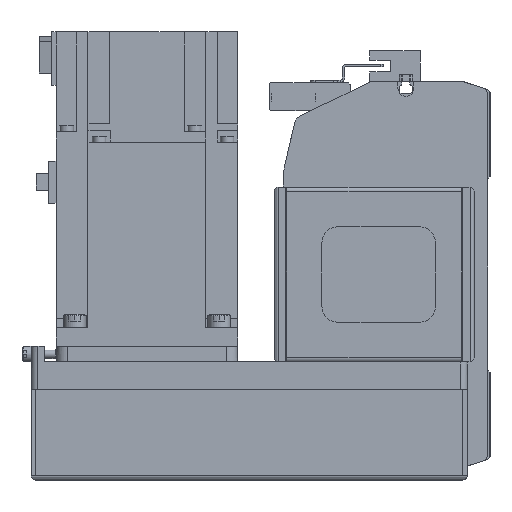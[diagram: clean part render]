
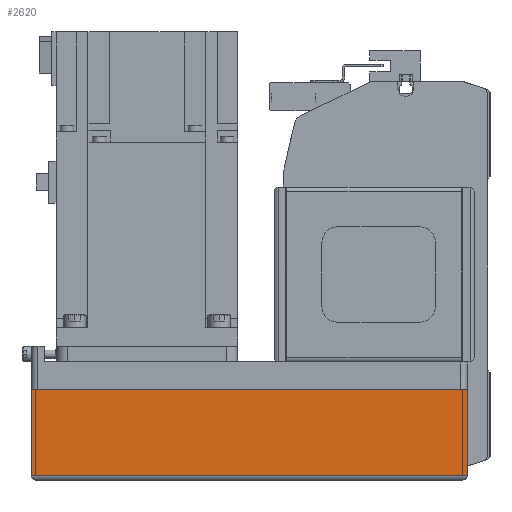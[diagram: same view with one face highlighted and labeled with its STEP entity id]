
A CAD part, left-side view. The second image highlights one B-rep face of the part: STEP entity #2620.
In plain terms, the highlighted planar face has unit normal (-1, 0, 0) as drawn and (0, -1, 0) by its records, which use the part's own axes.
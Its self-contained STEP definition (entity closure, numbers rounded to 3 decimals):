
#2620 = ADVANCED_FACE( '', ( #5610 ), #5611, .T. );
#5610 = FACE_OUTER_BOUND( '', #8918, .T. );
#5611 = PLANE( '', #8919 );
#8918 = EDGE_LOOP( '', ( #16380, #16381, #16382, #16383 ) );
#8919 = AXIS2_PLACEMENT_3D( '', #16384, #16385, #16386 );
#16380 = ORIENTED_EDGE( '', *, *, #21464, .F. );
#16381 = ORIENTED_EDGE( '', *, *, #21883, .F. );
#16382 = ORIENTED_EDGE( '', *, *, #20088, .T. );
#16383 = ORIENTED_EDGE( '', *, *, #20592, .T. );
#16384 = CARTESIAN_POINT( '', ( -192., -40., -12.1 ) );
#16385 = DIRECTION( '', ( 0., -1., 0. ) );
#16386 = DIRECTION( '', ( 0., 0., -1. ) );
#20088 = EDGE_CURVE( '', #23356, #24479, #24481, .T. );
#20592 = EDGE_CURVE( '', #24479, #25264, #25266, .T. );
#21464 = EDGE_CURVE( '', #26511, #25264, #26512, .T. );
#21883 = EDGE_CURVE( '', #23356, #26511, #27039, .T. );
#23356 = VERTEX_POINT( '', #29128 );
#24479 = VERTEX_POINT( '', #30752 );
#24481 = LINE( '', #30755, #30756 );
#25264 = VERTEX_POINT( '', #31970 );
#25266 = LINE( '', #31972, #31973 );
#26511 = VERTEX_POINT( '', #33760 );
#26512 = LINE( '', #33761, #33762 );
#27039 = LINE( '', #34565, #34566 );
#29128 = CARTESIAN_POINT( '', ( -192., -40., -12.1 ) );
#30752 = CARTESIAN_POINT( '', ( -192., -40., -50. ) );
#30755 = CARTESIAN_POINT( '', ( -192., -40., -12.1 ) );
#30756 = VECTOR( '', #36778, 1000. );
#31970 = CARTESIAN_POINT( '', ( 0., -40., -50. ) );
#31972 = CARTESIAN_POINT( '', ( -192., -40., -50. ) );
#31973 = VECTOR( '', #37427, 1000. );
#33760 = CARTESIAN_POINT( '', ( 0., -40., -12.1 ) );
#33761 = CARTESIAN_POINT( '', ( 0., -40., -12.1 ) );
#33762 = VECTOR( '', #38457, 1000. );
#34565 = CARTESIAN_POINT( '', ( -192., -40., -12.1 ) );
#34566 = VECTOR( '', #38908, 1000. );
#36778 = DIRECTION( '', ( 0., 0., -1. ) );
#37427 = DIRECTION( '', ( 1., 0., 0. ) );
#38457 = DIRECTION( '', ( 0., 0., -1. ) );
#38908 = DIRECTION( '', ( 1., 0., 0. ) );
